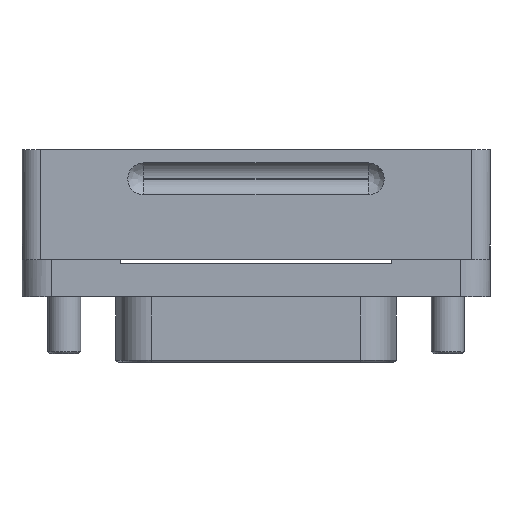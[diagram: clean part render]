
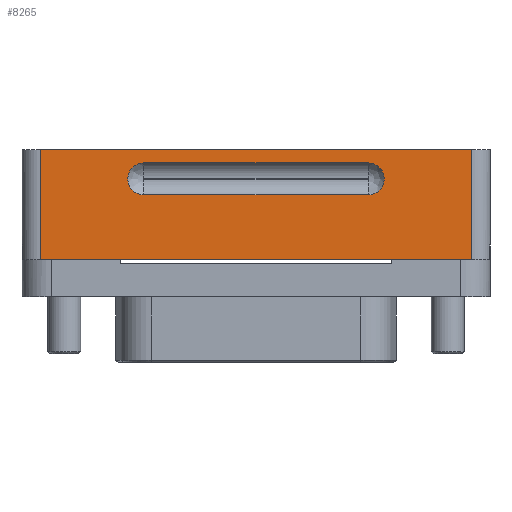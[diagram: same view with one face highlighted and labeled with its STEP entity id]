
A CAD part, front view. The second image highlights one B-rep face of the part: STEP entity #8265.
In plain terms, the highlighted planar face has unit normal (0, -1, 0).
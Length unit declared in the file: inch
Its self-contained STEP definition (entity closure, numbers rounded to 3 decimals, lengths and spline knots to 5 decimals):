
#8139 = VERTEX_POINT ( 'NONE', #16207 ) ;
#8141 = EDGE_CURVE ( 'NONE', #8152, #8139, #16206, .T. ) ;
#8150 = EDGE_CURVE ( 'NONE', #8151, #8152, #16237, .T. ) ;
#8151 = VERTEX_POINT ( 'NONE', #16233 ) ;
#8152 = VERTEX_POINT ( 'NONE', #16232 ) ;
#8200 = EDGE_CURVE ( 'NONE', #8139, #8201, #16248, .T. ) ;
#8201 = VERTEX_POINT ( 'NONE', #16244 ) ;
#8213 = VERTEX_POINT ( 'NONE', #16271 ) ;
#8215 = EDGE_CURVE ( 'NONE', #8216, #8213, #16311, .T. ) ;
#8216 = VERTEX_POINT ( 'NONE', #16306 ) ;
#8249 = EDGE_LOOP ( 'NONE', ( #8250, #8251, #8252, #8253 ) ) ;
#8250 = ORIENTED_EDGE ( 'NONE', *, *, #8200, .T. ) ;
#8251 = ORIENTED_EDGE ( 'NONE', *, *, #8286, .T. ) ;
#8252 = ORIENTED_EDGE ( 'NONE', *, *, #8150, .T. ) ;
#8253 = ORIENTED_EDGE ( 'NONE', *, *, #8141, .T. ) ;
#8260 = VERTEX_POINT ( 'NONE', #16303 ) ;
#8262 = EDGE_CURVE ( 'NONE', #8275, #8260, #16298, .T. ) ;
#8265 = ADVANCED_FACE ( 'NONE', ( #16293, #16292 ), #16291, .T. ) ;
#8266 = EDGE_LOOP ( 'NONE', ( #8267, #8268, #8270, #8328 ) ) ;
#8267 = ORIENTED_EDGE ( 'NONE', *, *, #8262, .T. ) ;
#8268 = ORIENTED_EDGE ( 'NONE', *, *, #8269, .F. ) ;
#8269 = EDGE_CURVE ( 'NONE', #8216, #8260, #16285, .T. ) ;
#8270 = ORIENTED_EDGE ( 'NONE', *, *, #8215, .T. ) ;
#8274 = EDGE_CURVE ( 'NONE', #8213, #8275, #16327, .T. ) ;
#8275 = VERTEX_POINT ( 'NONE', #16323 ) ;
#8286 = EDGE_CURVE ( 'NONE', #8201, #8151, #16316, .T. ) ;
#8328 = ORIENTED_EDGE ( 'NONE', *, *, #8274, .T. ) ;
#16203 = DIRECTION ( 'NONE',  ( 1., 0., 0. ) ) ;
#16204 = VECTOR ( 'NONE', #16203, 39.37008 ) ;
#16205 = CARTESIAN_POINT ( 'NONE',  ( 0.0545, -0.475, -0.375 ) ) ;
#16206 = LINE ( 'NONE', #16205, #16204 ) ;
#16207 = CARTESIAN_POINT ( 'NONE',  ( 0.79, -0.475, -0.375 ) ) ;
#16232 = CARTESIAN_POINT ( 'NONE',  ( -0.681, -0.475, -0.375 ) ) ;
#16233 = CARTESIAN_POINT ( 'NONE',  ( -0.681, -0.475, 0. ) ) ;
#16234 = DIRECTION ( 'NONE',  ( 0., 0., -1. ) ) ;
#16235 = VECTOR ( 'NONE', #16234, 39.37008 ) ;
#16236 = CARTESIAN_POINT ( 'NONE',  ( -0.681, -0.475, -0.375 ) ) ;
#16237 = LINE ( 'NONE', #16236, #16235 ) ;
#16244 = CARTESIAN_POINT ( 'NONE',  ( 0.79, -0.475, 0. ) ) ;
#16245 = DIRECTION ( 'NONE',  ( 0., 0., 1. ) ) ;
#16246 = VECTOR ( 'NONE', #16245, 39.37008 ) ;
#16247 = CARTESIAN_POINT ( 'NONE',  ( 0.79, -0.475, -0.375 ) ) ;
#16248 = LINE ( 'NONE', #16247, #16246 ) ;
#16271 = CARTESIAN_POINT ( 'NONE',  ( 0.437, -0.475, -0.15448 ) ) ;
#16282 = DIRECTION ( 'NONE',  ( -1., 0., 0. ) ) ;
#16283 = VECTOR ( 'NONE', #16282, 39.37008 ) ;
#16284 = CARTESIAN_POINT ( 'NONE',  ( 0.0545, -0.475, -0.04552 ) ) ;
#16285 = LINE ( 'NONE', #16284, #16283 ) ;
#16287 = DIRECTION ( 'NONE',  ( 1., 0., 0. ) ) ;
#16288 = DIRECTION ( 'NONE',  ( 0., -1., 0. ) ) ;
#16289 = CARTESIAN_POINT ( 'NONE',  ( -0.681, -0.475, -0.375 ) ) ;
#16290 = AXIS2_PLACEMENT_3D ( 'NONE', #16289, #16288, #16287 ) ;
#16291 = PLANE ( 'NONE',  #16290 ) ;
#16292 = FACE_OUTER_BOUND ( 'NONE', #8249, .T. ) ;
#16293 = FACE_BOUND ( 'NONE', #8266, .T. ) ;
#16294 = DIRECTION ( 'NONE',  ( 0., 0., -1. ) ) ;
#16295 = DIRECTION ( 'NONE',  ( 0., 1., 0. ) ) ;
#16296 = CARTESIAN_POINT ( 'NONE',  ( -0.328, -0.475, -0.1 ) ) ;
#16297 = AXIS2_PLACEMENT_3D ( 'NONE', #16296, #16295, #16294 ) ;
#16298 = CIRCLE ( 'NONE', #16297, 0.05448 ) ;
#16303 = CARTESIAN_POINT ( 'NONE',  ( -0.328, -0.475, -0.04552 ) ) ;
#16306 = CARTESIAN_POINT ( 'NONE',  ( 0.437, -0.475, -0.04552 ) ) ;
#16307 = DIRECTION ( 'NONE',  ( 0., 0., -1. ) ) ;
#16308 = DIRECTION ( 'NONE',  ( 0., 1., 0. ) ) ;
#16309 = CARTESIAN_POINT ( 'NONE',  ( 0.437, -0.475, -0.1 ) ) ;
#16310 = AXIS2_PLACEMENT_3D ( 'NONE', #16309, #16308, #16307 ) ;
#16311 = CIRCLE ( 'NONE', #16310, 0.05448 ) ;
#16316 = LINE ( 'NONE', #16384, #16383 ) ;
#16323 = CARTESIAN_POINT ( 'NONE',  ( -0.328, -0.475, -0.15448 ) ) ;
#16324 = DIRECTION ( 'NONE',  ( -1., 0., 0. ) ) ;
#16325 = VECTOR ( 'NONE', #16324, 39.37008 ) ;
#16326 = CARTESIAN_POINT ( 'NONE',  ( 0.0545, -0.475, -0.15448 ) ) ;
#16327 = LINE ( 'NONE', #16326, #16325 ) ;
#16382 = DIRECTION ( 'NONE',  ( -1., 0., 0. ) ) ;
#16383 = VECTOR ( 'NONE', #16382, 39.37008 ) ;
#16384 = CARTESIAN_POINT ( 'NONE',  ( 0.0545, -0.475, 0. ) ) ;
